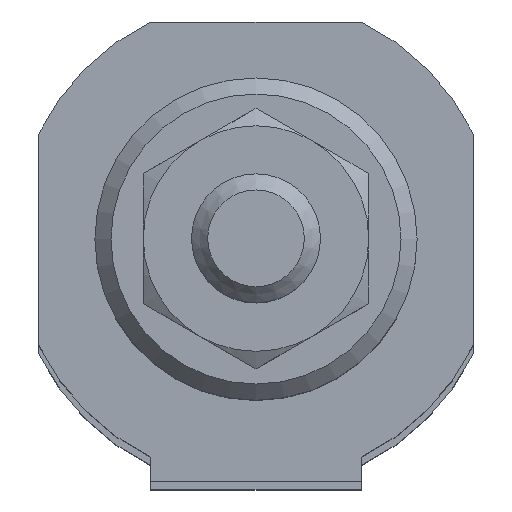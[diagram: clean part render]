
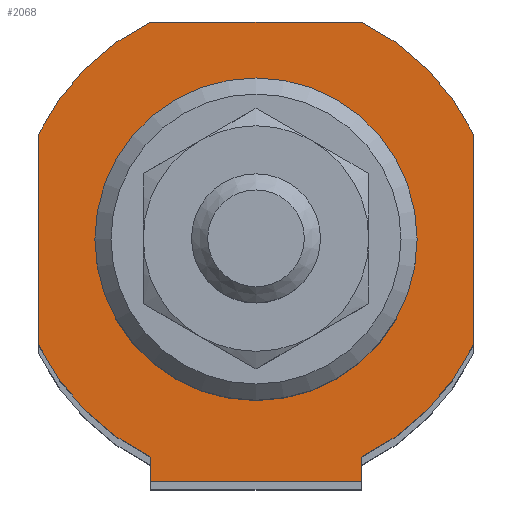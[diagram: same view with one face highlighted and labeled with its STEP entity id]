
A CAD part, top view. The second image highlights one B-rep face of the part: STEP entity #2068.
In plain terms, the highlighted planar face has unit normal (0, 0, 1).
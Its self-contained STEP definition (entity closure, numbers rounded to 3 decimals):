
#1123=CARTESIAN_POINT('',(6.538,-15.0,334.0));
#1124=VERTEX_POINT('',#1123);
#1125=CARTESIAN_POINT('',(-6.538,-15.0,334.0));
#1126=VERTEX_POINT('',#1125);
#1127=CARTESIAN_POINT('',(6.538,-15.0,334.0));
#1128=DIRECTION('',(-1.0,0.0,0.0));
#1129=VECTOR('',#1128,13.077);
#1130=LINE('',#1127,#1129);
#1131=EDGE_CURVE('',#1124,#1126,#1130,.T.);
#1420=CARTESIAN_POINT('',(-6.538,-13.5,334.0));
#1421=VERTEX_POINT('',#1420);
#1435=CARTESIAN_POINT('',(-6.538,-13.5,334.0));
#1436=DIRECTION('',(0.0,-1.0,0.0));
#1437=VECTOR('',#1436,1.5);
#1438=LINE('',#1435,#1437);
#1439=EDGE_CURVE('',#1421,#1126,#1438,.T.);
#1451=CARTESIAN_POINT('',(6.538,-13.5,334.0));
#1452=VERTEX_POINT('',#1451);
#1459=CARTESIAN_POINT('',(6.538,-13.5,334.0));
#1460=DIRECTION('',(0.0,-1.0,0.0));
#1461=VECTOR('',#1460,1.5);
#1462=LINE('',#1459,#1461);
#1463=EDGE_CURVE('',#1452,#1124,#1462,.T.);
#1788=CARTESIAN_POINT('',(10.0,0.,334.0));
#1789=VERTEX_POINT('',#1788);
#1790=CARTESIAN_POINT('',(0.,0.,334.0));
#1791=DIRECTION('',(0.0,0.0,-1.0));
#1792=DIRECTION('',(-1.0,0.0,0.0));
#1793=AXIS2_PLACEMENT_3D('',#1790,#1791,#1792);
#1794=CIRCLE('',#1793,10.0);
#1795=EDGE_CURVE('',#1789,#1789,#1794,.T.);
#1888=CARTESIAN_POINT('',(6.538,13.5,334.0));
#1889=VERTEX_POINT('',#1888);
#1890=CARTESIAN_POINT('',(13.5,6.538,334.0));
#1891=VERTEX_POINT('',#1890);
#1892=CARTESIAN_POINT('',(0.0,0.0,334.0));
#1893=DIRECTION('',(0.0,0.0,-1.));
#1894=DIRECTION('',(-0.9,-0.436,0.0));
#1895=AXIS2_PLACEMENT_3D('',#1892,#1893,#1894);
#1896=CIRCLE('',#1895,15.);
#1897=EDGE_CURVE('',#1889,#1891,#1896,.T.);
#1920=CARTESIAN_POINT('',(13.5,-6.538,334.0));
#1921=VERTEX_POINT('',#1920);
#1922=CARTESIAN_POINT('',(13.5,6.538,334.0));
#1923=DIRECTION('',(0.0,-1.0,0.0));
#1924=VECTOR('',#1923,13.077);
#1925=LINE('',#1922,#1924);
#1926=EDGE_CURVE('',#1891,#1921,#1925,.T.);
#1944=CARTESIAN_POINT('',(0.0,0.0,334.0));
#1945=DIRECTION('',(0.0,0.0,-1.));
#1946=DIRECTION('',(-0.436,0.9,0.0));
#1947=AXIS2_PLACEMENT_3D('',#1944,#1945,#1946);
#1948=CIRCLE('',#1947,15.);
#1949=EDGE_CURVE('',#1921,#1452,#1948,.T.);
#1962=CARTESIAN_POINT('',(-13.5,-6.538,334.0));
#1963=VERTEX_POINT('',#1962);
#1964=CARTESIAN_POINT('',(0.0,0.0,334.0));
#1965=DIRECTION('',(0.0,0.0,-1.));
#1966=DIRECTION('',(0.9,0.436,0.0));
#1967=AXIS2_PLACEMENT_3D('',#1964,#1965,#1966);
#1968=CIRCLE('',#1967,15.);
#1969=EDGE_CURVE('',#1421,#1963,#1968,.T.);
#1987=CARTESIAN_POINT('',(-13.5,6.538,334.0));
#1988=VERTEX_POINT('',#1987);
#1989=CARTESIAN_POINT('',(-13.5,-6.538,334.0));
#1990=DIRECTION('',(0.0,1.0,0.0));
#1991=VECTOR('',#1990,13.077);
#1992=LINE('',#1989,#1991);
#1993=EDGE_CURVE('',#1963,#1988,#1992,.T.);
#2011=CARTESIAN_POINT('',(-6.538,13.5,334.0));
#2012=VERTEX_POINT('',#2011);
#2013=CARTESIAN_POINT('',(0.0,0.0,334.0));
#2014=DIRECTION('',(0.0,0.0,-1.));
#2015=DIRECTION('',(0.436,-0.9,0.0));
#2016=AXIS2_PLACEMENT_3D('',#2013,#2014,#2015);
#2017=CIRCLE('',#2016,15.);
#2018=EDGE_CURVE('',#1988,#2012,#2017,.T.);
#2036=CARTESIAN_POINT('',(-6.538,13.5,334.0));
#2037=DIRECTION('',(1.0,0.0,0.0));
#2038=VECTOR('',#2037,13.077);
#2039=LINE('',#2036,#2038);
#2040=EDGE_CURVE('',#2012,#1889,#2039,.T.);
#2048=CARTESIAN_POINT('',(0.,0.0,334.0));
#2049=DIRECTION('',(0.0,0.0,1.0));
#2050=DIRECTION('',(1.0,0.0,0.0));
#2051=AXIS2_PLACEMENT_3D('',#2048,#2049,#2050);
#2052=PLANE('',#2051);
#2053=ORIENTED_EDGE('',*,*,#1897,.F.);
#2054=ORIENTED_EDGE('',*,*,#2040,.F.);
#2055=ORIENTED_EDGE('',*,*,#2018,.F.);
#2056=ORIENTED_EDGE('',*,*,#1993,.F.);
#2057=ORIENTED_EDGE('',*,*,#1969,.F.);
#2058=ORIENTED_EDGE('',*,*,#1439,.T.);
#2059=ORIENTED_EDGE('',*,*,#1131,.F.);
#2060=ORIENTED_EDGE('',*,*,#1463,.F.);
#2061=ORIENTED_EDGE('',*,*,#1949,.F.);
#2062=ORIENTED_EDGE('',*,*,#1926,.F.);
#2063=EDGE_LOOP('',(#2053,#2054,#2055,#2056,#2057,#2058,#2059,#2060,#2061,#2062));
#2064=FACE_OUTER_BOUND('',#2063,.T.);
#2065=ORIENTED_EDGE('',*,*,#1795,.T.);
#2066=EDGE_LOOP('',(#2065));
#2067=FACE_BOUND('',#2066,.T.);
#2068=ADVANCED_FACE('',(#2064,#2067),#2052,.T.);
